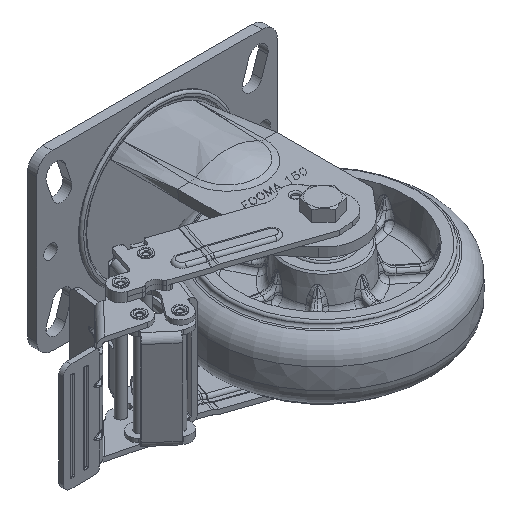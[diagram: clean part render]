
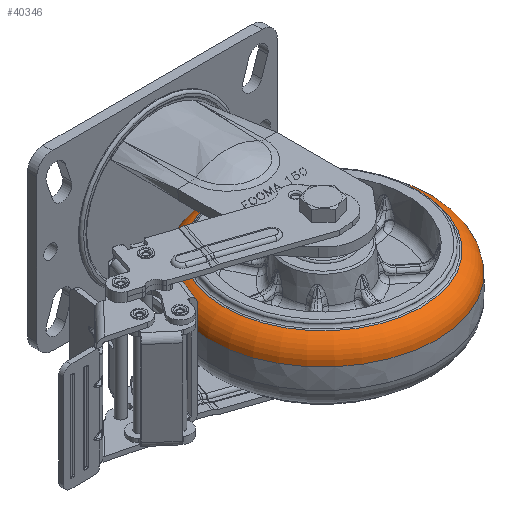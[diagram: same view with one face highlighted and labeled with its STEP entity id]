
A CAD part, isometric view. The second image highlights one B-rep face of the part: STEP entity #40346.
In plain terms, the highlighted toroidal (fillet/blend) face has major radius 59.865 mm and minor radius 15 mm.
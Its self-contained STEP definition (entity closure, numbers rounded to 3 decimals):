
#1276=TOROIDAL_SURFACE('',#43341,59.865,15.);
#9260=FACE_BOUND('',#13352,.T.);
#10932=FACE_OUTER_BOUND('',#13351,.T.);
#13351=EDGE_LOOP('',(#32774));
#13352=EDGE_LOOP('',(#32775,#32776));
#14657=CIRCLE('',#43340,64.78);
#14658=CIRCLE('',#43342,74.85);
#14659=CIRCLE('',#43343,74.85);
#17897=VERTEX_POINT('',#66108);
#17898=VERTEX_POINT('',#66111);
#17899=VERTEX_POINT('',#66112);
#22919=EDGE_CURVE('',#17897,#17897,#14657,.T.);
#22920=EDGE_CURVE('',#17898,#17899,#14658,.T.);
#22921=EDGE_CURVE('',#17899,#17898,#14659,.T.);
#32774=ORIENTED_EDGE('',*,*,#22919,.T.);
#32775=ORIENTED_EDGE('',*,*,#22920,.F.);
#32776=ORIENTED_EDGE('',*,*,#22921,.F.);
#40346=ADVANCED_FACE('',(#10932,#9260),#1276,.T.);
#43340=AXIS2_PLACEMENT_3D('',#66109,#52401,#52402);
#43341=AXIS2_PLACEMENT_3D('',#66110,#52403,#52404);
#43342=AXIS2_PLACEMENT_3D('',#66113,#52405,#52406);
#43343=AXIS2_PLACEMENT_3D('',#66114,#52407,#52408);
#52401=DIRECTION('center_axis',(0.,0.,
-1.));
#52402=DIRECTION('ref_axis',(-0.014,-1.,0.));
#52403=DIRECTION('center_axis',(0.,0.,
-1.));
#52404=DIRECTION('ref_axis',(-0.014,-1.,0.));
#52405=DIRECTION('center_axis',(0.,0.,
-1.));
#52406=DIRECTION('ref_axis',(-0.014,-1.,0.));
#52407=DIRECTION('center_axis',(0.,0.,
-1.));
#52408=DIRECTION('ref_axis',(-0.014,-1.,0.));
#66108=CARTESIAN_POINT('',(-74.137,-105.71,20.209));
#66109=CARTESIAN_POINT('Origin',(-9.363,-106.63,20.209));
#66110=CARTESIAN_POINT('Origin',(-9.363,-106.63,6.037));
#66111=CARTESIAN_POINT('',(-84.206,-105.567,6.708));
#66112=CARTESIAN_POINT('',(-8.3,-31.788,6.708));
#66113=CARTESIAN_POINT('Origin',(-9.363,-106.63,6.708));
#66114=CARTESIAN_POINT('Origin',(-9.363,-106.63,6.708));
